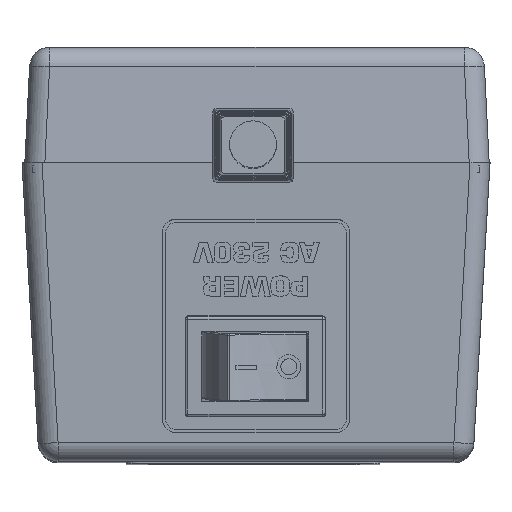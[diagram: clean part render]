
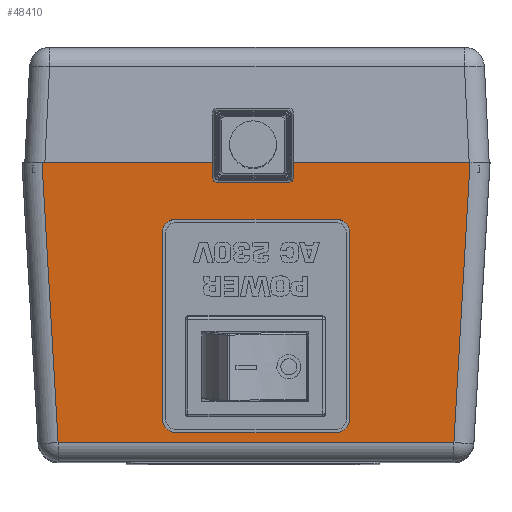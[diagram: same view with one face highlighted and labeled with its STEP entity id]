
A CAD part, top view. The second image highlights one B-rep face of the part: STEP entity #48410.
In plain terms, the highlighted planar face has unit normal (0, -0.056, 0.999).
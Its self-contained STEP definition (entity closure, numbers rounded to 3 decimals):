
#2176=FACE_BOUND('',#7046,.T.);
#2443=CIRCLE('',#50721,2.);
#2444=CIRCLE('',#50722,2.);
#2445=CIRCLE('',#50723,2.);
#2446=CIRCLE('',#50724,2.);
#4416=FACE_OUTER_BOUND('',#7045,.T.);
#7045=EDGE_LOOP('',(#38821,#38822,#38823,#38824,#38825,#38826,#38827,#38828,
#38829,#38830));
#7046=EDGE_LOOP('',(#38831,#38832,#38833,#38834,#38835,#38836,#38837,#38838));
#11204=LINE('',#80349,#16309);
#11205=LINE('',#80351,#16310);
#11217=LINE('',#80383,#16322);
#11218=LINE('',#80385,#16323);
#11228=LINE('',#80408,#16333);
#11231=LINE('',#80414,#16336);
#11254=LINE('',#80462,#16359);
#11555=LINE('',#81213,#16660);
#11556=LINE('',#81215,#16661);
#11557=LINE('',#81216,#16662);
#11558=LINE('',#81221,#16663);
#11559=LINE('',#81225,#16664);
#11560=LINE('',#81229,#16665);
#11561=LINE('',#81232,#16666);
#16309=VECTOR('',#57703,10.);
#16310=VECTOR('',#57704,10.);
#16322=VECTOR('',#57726,10.);
#16323=VECTOR('',#57727,10.);
#16333=VECTOR('',#57747,10.);
#16336=VECTOR('',#57752,10.);
#16359=VECTOR('',#57789,10.);
#16660=VECTOR('',#58476,10.);
#16661=VECTOR('',#58477,10.);
#16662=VECTOR('',#58478,10.);
#16663=VECTOR('',#58481,10.);
#16664=VECTOR('',#58484,10.);
#16665=VECTOR('',#58487,10.);
#16666=VECTOR('',#58490,10.);
#21010=VERTEX_POINT('',#80346);
#21011=VERTEX_POINT('',#80348);
#21012=VERTEX_POINT('',#80350);
#21026=VERTEX_POINT('',#80380);
#21027=VERTEX_POINT('',#80382);
#21028=VERTEX_POINT('',#80384);
#21036=VERTEX_POINT('',#80407);
#21038=VERTEX_POINT('',#80413);
#21313=VERTEX_POINT('',#81212);
#21314=VERTEX_POINT('',#81214);
#21315=VERTEX_POINT('',#81217);
#21316=VERTEX_POINT('',#81218);
#21317=VERTEX_POINT('',#81220);
#21318=VERTEX_POINT('',#81222);
#21319=VERTEX_POINT('',#81224);
#21320=VERTEX_POINT('',#81226);
#21321=VERTEX_POINT('',#81228);
#21322=VERTEX_POINT('',#81230);
#26939=EDGE_CURVE('',#21011,#21010,#11204,.T.);
#26940=EDGE_CURVE('',#21012,#21011,#11205,.T.);
#26956=EDGE_CURVE('',#21027,#21026,#11217,.T.);
#26957=EDGE_CURVE('',#21028,#21027,#11218,.T.);
#26969=EDGE_CURVE('',#21026,#21036,#11228,.T.);
#26972=EDGE_CURVE('',#21036,#21038,#11231,.T.);
#26997=EDGE_CURVE('',#21038,#21012,#11254,.T.);
#27378=EDGE_CURVE('',#21313,#21010,#11555,.T.);
#27379=EDGE_CURVE('',#21314,#21313,#11556,.T.);
#27380=EDGE_CURVE('',#21028,#21314,#11557,.T.);
#27381=EDGE_CURVE('',#21315,#21316,#2443,.T.);
#27382=EDGE_CURVE('',#21316,#21317,#11558,.T.);
#27383=EDGE_CURVE('',#21317,#21318,#2444,.T.);
#27384=EDGE_CURVE('',#21318,#21319,#11559,.T.);
#27385=EDGE_CURVE('',#21319,#21320,#2445,.T.);
#27386=EDGE_CURVE('',#21320,#21321,#11560,.T.);
#27387=EDGE_CURVE('',#21321,#21322,#2446,.T.);
#27388=EDGE_CURVE('',#21322,#21315,#11561,.T.);
#38821=ORIENTED_EDGE('',*,*,#26969,.T.);
#38822=ORIENTED_EDGE('',*,*,#26972,.T.);
#38823=ORIENTED_EDGE('',*,*,#26997,.T.);
#38824=ORIENTED_EDGE('',*,*,#26940,.T.);
#38825=ORIENTED_EDGE('',*,*,#26939,.T.);
#38826=ORIENTED_EDGE('',*,*,#27378,.F.);
#38827=ORIENTED_EDGE('',*,*,#27379,.F.);
#38828=ORIENTED_EDGE('',*,*,#27380,.F.);
#38829=ORIENTED_EDGE('',*,*,#26957,.T.);
#38830=ORIENTED_EDGE('',*,*,#26956,.T.);
#38831=ORIENTED_EDGE('',*,*,#27381,.T.);
#38832=ORIENTED_EDGE('',*,*,#27382,.T.);
#38833=ORIENTED_EDGE('',*,*,#27383,.T.);
#38834=ORIENTED_EDGE('',*,*,#27384,.T.);
#38835=ORIENTED_EDGE('',*,*,#27385,.T.);
#38836=ORIENTED_EDGE('',*,*,#27386,.T.);
#38837=ORIENTED_EDGE('',*,*,#27387,.T.);
#38838=ORIENTED_EDGE('',*,*,#27388,.T.);
#43722=PLANE('',#50720);
#48410=ADVANCED_FACE('',(#4416,#2176),#43722,.T.);
#50720=AXIS2_PLACEMENT_3D('',#81211,#58474,#58475);
#50721=AXIS2_PLACEMENT_3D('',#81219,#58479,#58480);
#50722=AXIS2_PLACEMENT_3D('',#81223,#58482,#58483);
#50723=AXIS2_PLACEMENT_3D('',#81227,#58485,#58486);
#50724=AXIS2_PLACEMENT_3D('',#81231,#58488,#58489);
#57703=DIRECTION('',(-1.,0.,0.));
#57704=DIRECTION('',(-1.,0.,0.));
#57726=DIRECTION('',(-1.,0.,0.));
#57727=DIRECTION('',(-1.,0.,0.));
#57747=DIRECTION('',(0.,-0.998,-0.056));
#57752=DIRECTION('',(-1.,0.,0.));
#57789=DIRECTION('',(0.,0.998,0.056));
#58474=DIRECTION('center_axis',(0.,-0.056,
0.998));
#58475=DIRECTION('ref_axis',(0.,0.998,0.056));
#58476=DIRECTION('',(-0.057,0.997,0.056));
#58477=DIRECTION('',(-1.,0.,0.));
#58478=DIRECTION('',(-0.057,-0.997,-0.056));
#58479=DIRECTION('center_axis',(0.,0.056,
-0.998));
#58480=DIRECTION('ref_axis',(0.,-0.998,-0.056));
#58481=DIRECTION('',(1.,0.,0.));
#58482=DIRECTION('center_axis',(0.,0.056,
-0.998));
#58483=DIRECTION('ref_axis',(-1.,0.,0.));
#58484=DIRECTION('',(0.,-0.998,-0.056));
#58485=DIRECTION('center_axis',(0.,0.056,
-0.998));
#58486=DIRECTION('ref_axis',(0.,0.998,0.056));
#58487=DIRECTION('',(-1.,0.,0.));
#58488=DIRECTION('center_axis',(0.,0.056,
-0.998));
#58489=DIRECTION('ref_axis',(1.,0.,0.));
#58490=DIRECTION('',(0.,0.998,0.056));
#80346=CARTESIAN_POINT('',(61.102,50.809,-14.408));
#80348=CARTESIAN_POINT('',(86.681,50.809,-14.408));
#80349=CARTESIAN_POINT('',(122.756,50.809,-14.408));
#80350=CARTESIAN_POINT('',(88.181,50.809,-14.408));
#80351=CARTESIAN_POINT('',(122.756,50.809,-14.408));
#80380=CARTESIAN_POINT('',(97.181,50.809,-14.408));
#80382=CARTESIAN_POINT('',(98.681,50.809,-14.408));
#80383=CARTESIAN_POINT('',(122.756,50.809,-14.408));
#80384=CARTESIAN_POINT('',(125.161,50.809,-14.408));
#80385=CARTESIAN_POINT('',(122.756,50.809,-14.408));
#80407=CARTESIAN_POINT('',(97.181,49.384,-14.488));
#80408=CARTESIAN_POINT('',(97.181,27.641,-15.698));
#80413=CARTESIAN_POINT('',(88.181,49.384,-14.488));
#80414=CARTESIAN_POINT('',(105.469,49.384,-14.488));
#80462=CARTESIAN_POINT('',(88.181,31.628,-15.476));
#81211=CARTESIAN_POINT('Origin',(122.756,6.059,-16.9));
#81212=CARTESIAN_POINT('',(63.511,8.892,-16.743));
#81213=CARTESIAN_POINT('',(62.662,23.66,-15.92));
#81214=CARTESIAN_POINT('',(122.752,8.892,-16.743));
#81215=CARTESIAN_POINT('',(122.756,8.892,-16.743));
#81216=CARTESIAN_POINT('',(122.501,4.542,-16.985));
#81217=CARTESIAN_POINT('',(79.131,40.344,-14.991));
#81218=CARTESIAN_POINT('',(81.131,42.341,-14.88));
#81219=CARTESIAN_POINT('Origin',(81.131,40.344,-14.991));
#81220=CARTESIAN_POINT('',(105.131,42.341,-14.88));
#81221=CARTESIAN_POINT('',(101.944,42.341,-14.88));
#81222=CARTESIAN_POINT('',(107.131,40.344,-14.991));
#81223=CARTESIAN_POINT('Origin',(105.131,40.344,-14.991));
#81224=CARTESIAN_POINT('',(107.131,12.387,-16.548));
#81225=CARTESIAN_POINT('',(107.131,23.201,-15.946));
#81226=CARTESIAN_POINT('',(105.131,10.39,-16.659));
#81227=CARTESIAN_POINT('Origin',(105.131,12.387,-16.548));
#81228=CARTESIAN_POINT('',(81.131,10.39,-16.659));
#81229=CARTESIAN_POINT('',(113.944,10.39,-16.659));
#81230=CARTESIAN_POINT('',(79.131,12.387,-16.548));
#81231=CARTESIAN_POINT('Origin',(81.131,12.387,-16.548));
#81232=CARTESIAN_POINT('',(79.131,9.223,-16.724));
